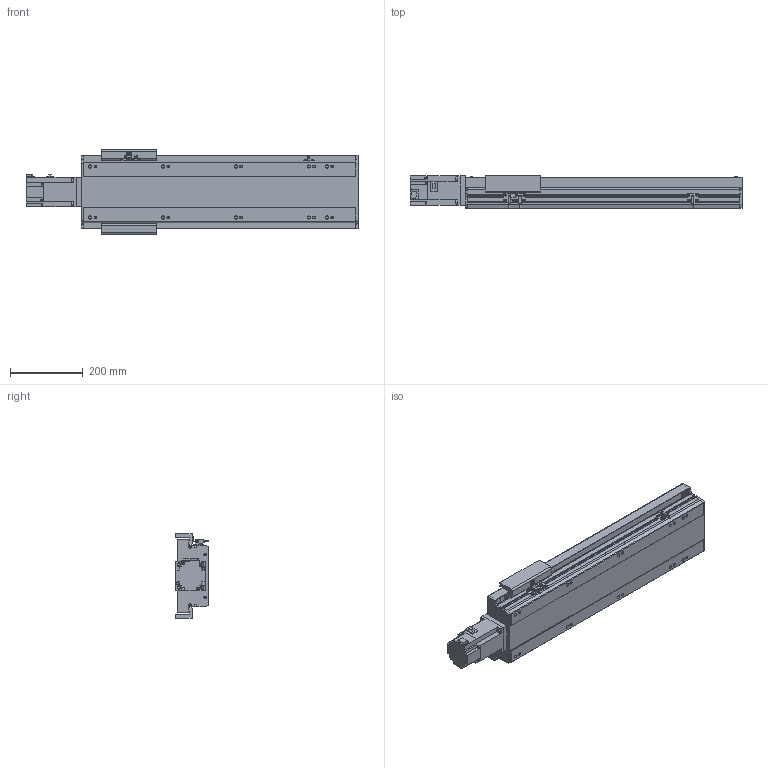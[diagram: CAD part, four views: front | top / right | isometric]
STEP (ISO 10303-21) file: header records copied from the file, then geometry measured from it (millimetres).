
FILE_DESCRIPTION(/* description */ ('STEP AP214'),/* implementation_level */ '2;1');
FILE_NAME(/* name */ 'PSM170-L10-S500-BC-T75-C1-N(0)',/* time_stamp */ '2022-06-13T03:24:17+02:00',/* author */ ('License CC BY-ND 4.0'),/* organization */ ('CADENAS'),/* preprocessor_version */ 'ST-DEVELOPER v18.102',/* originating_system */ 'PARTsolutions',/* authorisation */ ' ');
FILE_SCHEMA (('AUTOMOTIVE_DESIGN {1 0 10303 214 3 1 1}'));
Length unit declared in the file: millimetre
Products named in the file (8): PSM170-L10-S500-BC-T75-C1-N(0); PSM-Sensor; PSM140-S500-742.5; T75-p1; PSM170_body2; PSM170_body3; PSM170-S500_body1; PSM170-L10-S500-BC-T75-C1-N(0)_dummy
Assembly tree (11 placements, depth 2):
  PSM170-L10-S500-BC-T75-C1-N(0)
    PSM-Sensor  x3
    PSM140-S500-742.5  x3
    T75-p1
    PSM170_body2
    PSM170_body3
    PSM170-S500_body1
    PSM170-L10-S500-BC-T75-C1-N(0)_dummy
Bounding box: 911.3 x 92 x 233 mm (x, y, z)
Volume: 5649796.1 mm3; surface area: 1075322.6 mm2
Topology: 10 solids, 10 shells, 1031 faces, 2749 edges, 1790 vertices
Faces by surface type: plane 652, cylinder 305, cone 60, torus 14
Full cylindrical faces by diameter (mm): 2.8 x3, 3.08 x1, 4.134 x4, 4.5 x12, 4.6 x3, 5.7 x2, 6 x9, 6.647 x18, 7 x8, 7.6 x4, 8 x8, 8.5 x10, 10 x4, 14 x10, 45 x1, 70 x1
Entity records: 27025 total; most frequent: CARTESIAN_POINT 4934, DIRECTION 4522, ORIENTED_EDGE 4332, EDGE_CURVE 2166, AXIS2_PLACEMENT_3D 1523, VERTEX_POINT 1514, LINE 1476, VECTOR 1476
